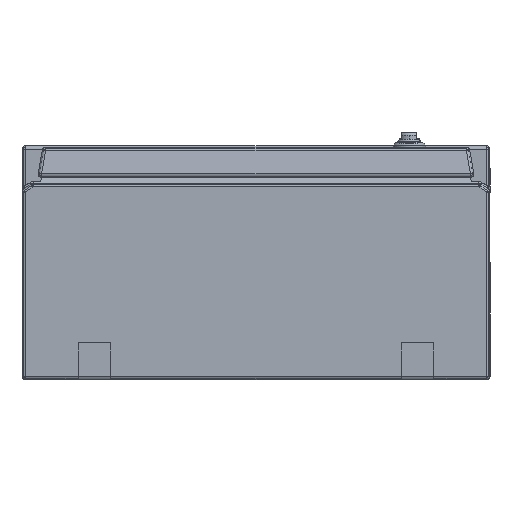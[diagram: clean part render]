
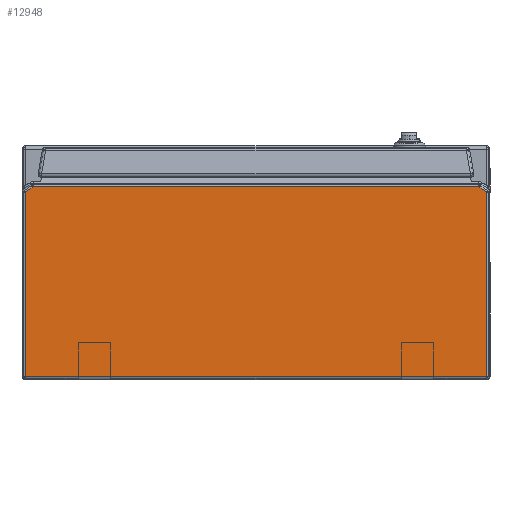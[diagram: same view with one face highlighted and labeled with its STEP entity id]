
A CAD part, front view. The second image highlights one B-rep face of the part: STEP entity #12948.
In plain terms, the highlighted planar face has unit normal (0, -1, 0).
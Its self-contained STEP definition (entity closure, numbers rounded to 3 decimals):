
#100 = CARTESIAN_POINT ( 'NONE',  ( -197., -247.5, -39.562 ) ) ;
#534 = PLANE ( 'NONE',  #7528 ) ;
#1766 = ORIENTED_EDGE ( 'NONE', *, *, #27540, .T. ) ;
#2831 = VECTOR ( 'NONE', #8939, 1000. ) ;
#3901 = LINE ( 'NONE', #13832, #6511 ) ;
#4359 = CARTESIAN_POINT ( 'NONE',  ( 197., -247.5, -200. ) ) ;
#4472 = EDGE_CURVE ( 'NONE', #9734, #10285, #26675, .T. ) ;
#4895 = EDGE_CURVE ( 'NONE', #30373, #28598, #9219, .T. ) ;
#6511 = VECTOR ( 'NONE', #23783, 1000. ) ;
#7307 = ORIENTED_EDGE ( 'NONE', *, *, #4895, .T. ) ;
#7528 = AXIS2_PLACEMENT_3D ( 'NONE', #10463, #20405, #30344 ) ;
#8433 = ORIENTED_EDGE ( 'NONE', *, *, #4472, .T. ) ;
#8939 = DIRECTION ( 'NONE',  ( 1., 0., 0. ) ) ;
#9219 = LINE ( 'NONE', #19158, #21893 ) ;
#9734 = VERTEX_POINT ( 'NONE', #27163 ) ;
#10285 = VERTEX_POINT ( 'NONE', #18285 ) ;
#10463 = CARTESIAN_POINT ( 'NONE',  ( 200., -247.5, -200. ) ) ;
#10558 = LINE ( 'NONE', #20505, #32014 ) ;
#10619 = EDGE_CURVE ( 'NONE', #28598, #31749, #10558, .T. ) ;
#11157 = VECTOR ( 'NONE', #31421, 1000. ) ;
#11529 = LINE ( 'NONE', #21474, #11157 ) ;
#12079 = EDGE_CURVE ( 'NONE', #32095, #9734, #21326, .T. ) ;
#12111 = EDGE_CURVE ( 'NONE', #31749, #32095, #11529, .T. ) ;
#12794 = EDGE_LOOP ( 'NONE', ( #8433, #1766, #7307, #16810, #16900, #16115 ) ) ;
#12948 = ADVANCED_FACE ( 'NONE', ( #22856 ), #534, .T. ) ;
#13832 = CARTESIAN_POINT ( 'NONE',  ( 193.995, -247.5, -37.457 ) ) ;
#14278 = DIRECTION ( 'NONE',  ( 0., 0., 1. ) ) ;
#14620 = CARTESIAN_POINT ( 'NONE',  ( -190.485, -247.5, -35. ) ) ;
#16115 = ORIENTED_EDGE ( 'NONE', *, *, #12079, .T. ) ;
#16673 = CARTESIAN_POINT ( 'NONE',  ( -197., -247.5, -197. ) ) ;
#16810 = ORIENTED_EDGE ( 'NONE', *, *, #10619, .T. ) ;
#16900 = ORIENTED_EDGE ( 'NONE', *, *, #12111, .T. ) ;
#18285 = CARTESIAN_POINT ( 'NONE',  ( 197., -247.5, -39.562 ) ) ;
#19158 = CARTESIAN_POINT ( 'NONE',  ( 200., -247.5, -35. ) ) ;
#20335 = VECTOR ( 'NONE', #14278, 1000. ) ;
#20405 = DIRECTION ( 'NONE',  ( 0., -1., 0. ) ) ;
#20505 = CARTESIAN_POINT ( 'NONE',  ( -197., -247.5, -39.562 ) ) ;
#21326 = LINE ( 'NONE', #31272, #2831 ) ;
#21474 = CARTESIAN_POINT ( 'NONE',  ( -197., -247.5, -200. ) ) ;
#21893 = VECTOR ( 'NONE', #29102, 1000. ) ;
#22414 = CARTESIAN_POINT ( 'NONE',  ( 190.485, -247.5, -35. ) ) ;
#22856 = FACE_OUTER_BOUND ( 'NONE', #12794, .T. ) ;
#23783 = DIRECTION ( 'NONE',  ( -0.819, 0., 0.574 ) ) ;
#26675 = LINE ( 'NONE', #4359, #20335 ) ;
#27163 = CARTESIAN_POINT ( 'NONE',  ( 197., -247.5, -197. ) ) ;
#27540 = EDGE_CURVE ( 'NONE', #10285, #30373, #3901, .T. ) ;
#28598 = VERTEX_POINT ( 'NONE', #14620 ) ;
#29102 = DIRECTION ( 'NONE',  ( -1., 0., 0. ) ) ;
#30344 = DIRECTION ( 'NONE',  ( 0., 0., -1. ) ) ;
#30373 = VERTEX_POINT ( 'NONE', #22414 ) ;
#30463 = DIRECTION ( 'NONE',  ( -0.819, 0., -0.574 ) ) ;
#31272 = CARTESIAN_POINT ( 'NONE',  ( 200., -247.5, -197. ) ) ;
#31421 = DIRECTION ( 'NONE',  ( 0., 0., -1. ) ) ;
#31749 = VERTEX_POINT ( 'NONE', #100 ) ;
#32014 = VECTOR ( 'NONE', #30463, 1000. ) ;
#32095 = VERTEX_POINT ( 'NONE', #16673 ) ;
